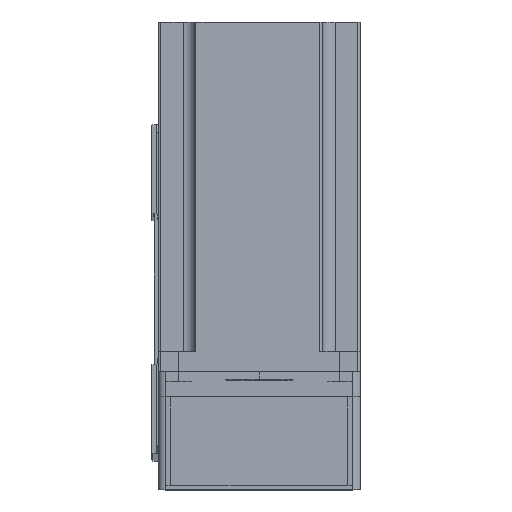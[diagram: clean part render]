
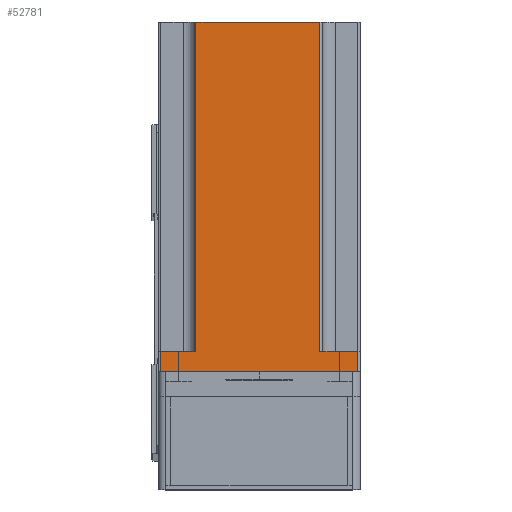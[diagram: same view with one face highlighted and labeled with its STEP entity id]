
A CAD part, top view. The second image highlights one B-rep face of the part: STEP entity #52781.
In plain terms, the highlighted planar face has unit normal (0, 0, 1) as drawn and (-1, 0, 0) by its records, which use the part's own axes.
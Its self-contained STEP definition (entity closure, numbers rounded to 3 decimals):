
#136 = CARTESIAN_POINT ( 'NONE',  ( -40., -40., 8. ) ) ;
#855 = DIRECTION ( 'NONE',  ( 0., 0., 1. ) ) ;
#2717 = CARTESIAN_POINT ( 'NONE',  ( -40., -24., 8. ) ) ;
#3971 = CARTESIAN_POINT ( 'NONE',  ( -40., 39., 0. ) ) ;
#4802 = ORIENTED_EDGE ( 'NONE', *, *, #11880, .T. ) ;
#6240 = FACE_OUTER_BOUND ( 'NONE', #55668, .T. ) ;
#6853 = EDGE_CURVE ( 'NONE', #37130, #41479, #7623, .T. ) ;
#6933 = LINE ( 'NONE', #47252, #18874 ) ;
#7025 = CARTESIAN_POINT ( 'NONE',  ( -40., 39., 8. ) ) ;
#7458 = ORIENTED_EDGE ( 'NONE', *, *, #18160, .F. ) ;
#7621 = VECTOR ( 'NONE', #39983, 1000. ) ;
#7623 = LINE ( 'NONE', #49914, #53770 ) ;
#8537 = DIRECTION ( 'NONE',  ( 0., -1., 0. ) ) ;
#8755 = CARTESIAN_POINT ( 'NONE',  ( -40., 40., 8. ) ) ;
#9144 = EDGE_CURVE ( 'NONE', #41479, #16420, #11386, .T. ) ;
#9323 = CARTESIAN_POINT ( 'NONE',  ( -40., -39., 8. ) ) ;
#11386 = LINE ( 'NONE', #45896, #35111 ) ;
#11425 = DIRECTION ( 'NONE',  ( 1., 0., 0. ) ) ;
#11609 = EDGE_CURVE ( 'NONE', #22881, #37130, #6933, .T. ) ;
#11880 = EDGE_CURVE ( 'NONE', #49251, #22881, #19541, .T. ) ;
#16073 = DIRECTION ( 'NONE',  ( 0., 0., -1. ) ) ;
#16080 = CARTESIAN_POINT ( 'NONE',  ( -40., -24., 138.3 ) ) ;
#16420 = VERTEX_POINT ( 'NONE', #9323 ) ;
#17140 = ORIENTED_EDGE ( 'NONE', *, *, #9144, .T. ) ;
#18160 = EDGE_CURVE ( 'NONE', #49251, #31179, #30901, .T. ) ;
#18732 = CARTESIAN_POINT ( 'NONE',  ( -40., 25., 8. ) ) ;
#18874 = VECTOR ( 'NONE', #16073, 1000. ) ;
#19116 = VECTOR ( 'NONE', #855, 1000. ) ;
#19230 = DIRECTION ( 'NONE',  ( 0., 0., 1. ) ) ;
#19541 = LINE ( 'NONE', #8755, #7621 ) ;
#21286 = EDGE_CURVE ( 'NONE', #21304, #23588, #32071, .T. ) ;
#21304 = VERTEX_POINT ( 'NONE', #2717 ) ;
#22881 = VERTEX_POINT ( 'NONE', #7025 ) ;
#23153 = DIRECTION ( 'NONE',  ( 0., -1., 0. ) ) ;
#23588 = VERTEX_POINT ( 'NONE', #57565 ) ;
#24011 = ORIENTED_EDGE ( 'NONE', *, *, #44579, .F. ) ;
#25832 = ORIENTED_EDGE ( 'NONE', *, *, #21286, .T. ) ;
#28227 = LINE ( 'NONE', #136, #50634 ) ;
#28964 = ORIENTED_EDGE ( 'NONE', *, *, #29963, .F. ) ;
#29253 = DIRECTION ( 'NONE',  ( 0., 0., 1. ) ) ;
#29963 = EDGE_CURVE ( 'NONE', #31179, #23588, #30131, .T. ) ;
#30131 = LINE ( 'NONE', #35273, #52588 ) ;
#30901 = LINE ( 'NONE', #18732, #19116 ) ;
#31179 = VERTEX_POINT ( 'NONE', #41584 ) ;
#32071 = LINE ( 'NONE', #16080, #55924 ) ;
#33453 = PLANE ( 'NONE',  #50933 ) ;
#35111 = VECTOR ( 'NONE', #19230, 1000. ) ;
#35273 = CARTESIAN_POINT ( 'NONE',  ( -40., -40., 138.3 ) ) ;
#37130 = VERTEX_POINT ( 'NONE', #3971 ) ;
#38169 = CARTESIAN_POINT ( 'NONE',  ( -40., -40., 138.3 ) ) ;
#39983 = DIRECTION ( 'NONE',  ( 0., 1., 0. ) ) ;
#40232 = DIRECTION ( 'NONE',  ( 0., -1., 0. ) ) ;
#41479 = VERTEX_POINT ( 'NONE', #55139 ) ;
#41584 = CARTESIAN_POINT ( 'NONE',  ( -40., 25., 138.3 ) ) ;
#42650 = DIRECTION ( 'NONE',  ( 0., 0., -1. ) ) ;
#44579 = EDGE_CURVE ( 'NONE', #21304, #16420, #28227, .T. ) ;
#45896 = CARTESIAN_POINT ( 'NONE',  ( -40., -39., 138.3 ) ) ;
#47252 = CARTESIAN_POINT ( 'NONE',  ( -40., 39., 138.3 ) ) ;
#49251 = VERTEX_POINT ( 'NONE', #55961 ) ;
#49914 = CARTESIAN_POINT ( 'NONE',  ( -40., -40., 0. ) ) ;
#50634 = VECTOR ( 'NONE', #40232, 1000. ) ;
#50933 = AXIS2_PLACEMENT_3D ( 'NONE', #38169, #11425, #42650 ) ;
#51292 = ORIENTED_EDGE ( 'NONE', *, *, #11609, .T. ) ;
#52588 = VECTOR ( 'NONE', #8537, 1000. ) ;
#52781 = ADVANCED_FACE ( 'NONE', ( #6240 ), #33453, .F. ) ;
#53770 = VECTOR ( 'NONE', #23153, 1000. ) ;
#55139 = CARTESIAN_POINT ( 'NONE',  ( -40., -39., 0. ) ) ;
#55495 = ORIENTED_EDGE ( 'NONE', *, *, #6853, .T. ) ;
#55668 = EDGE_LOOP ( 'NONE', ( #24011, #25832, #28964, #7458, #4802, #51292, #55495, #17140 ) ) ;
#55924 = VECTOR ( 'NONE', #29253, 1000. ) ;
#55961 = CARTESIAN_POINT ( 'NONE',  ( -40., 25., 8. ) ) ;
#57565 = CARTESIAN_POINT ( 'NONE',  ( -40., -24., 138.3 ) ) ;
